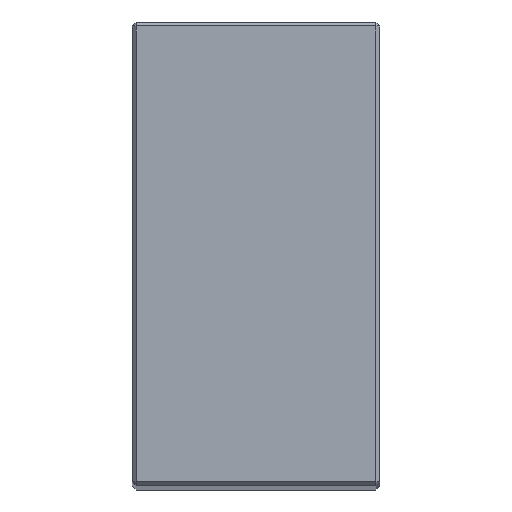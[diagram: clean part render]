
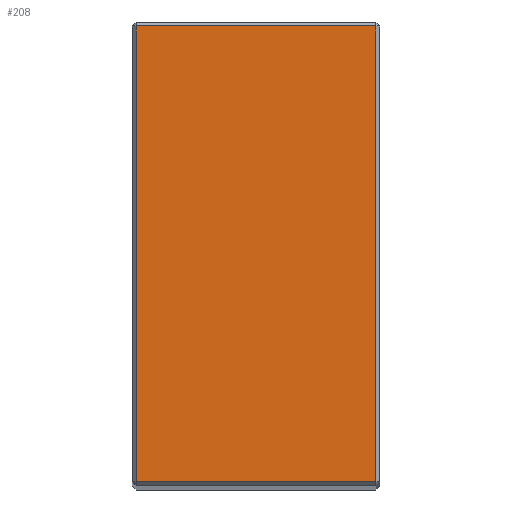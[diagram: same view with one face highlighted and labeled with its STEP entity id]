
A CAD part, top view. The second image highlights one B-rep face of the part: STEP entity #208.
In plain terms, the highlighted planar face has unit normal (0, 0, 1).
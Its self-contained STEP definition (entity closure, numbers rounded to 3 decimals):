
#5 = VERTEX_POINT ( 'NONE', #333 ) ;
#7 = DIRECTION ( 'NONE',  ( 0., -1., 0. ) ) ;
#12 = VECTOR ( 'NONE', #193, 1000. ) ;
#37 = ORIENTED_EDGE ( 'NONE', *, *, #225, .T. ) ;
#68 = ORIENTED_EDGE ( 'NONE', *, *, #131, .T. ) ;
#85 = DIRECTION ( 'NONE',  ( -1., 0., 0. ) ) ;
#94 = CARTESIAN_POINT ( 'NONE',  ( -31., 115., 298. ) ) ;
#99 = PLANE ( 'NONE',  #425 ) ;
#102 = CARTESIAN_POINT ( 'NONE',  ( 31., 116., 298. ) ) ;
#111 = DIRECTION ( 'NONE',  ( 0., 0., -1. ) ) ;
#112 = DIRECTION ( 'NONE',  ( -1., 0., 0. ) ) ;
#117 = CARTESIAN_POINT ( 'NONE',  ( 30., 115., 298. ) ) ;
#131 = EDGE_CURVE ( 'NONE', #299, #390, #635, .T. ) ;
#137 = EDGE_LOOP ( 'NONE', ( #291, #68, #37, #457 ) ) ;
#176 = CARTESIAN_POINT ( 'NONE',  ( 30., 116., 298. ) ) ;
#193 = DIRECTION ( 'NONE',  ( 1., 0., 0. ) ) ;
#201 = CARTESIAN_POINT ( 'NONE',  ( 31., 1., 298. ) ) ;
#202 = EDGE_CURVE ( 'NONE', #525, #299, #622, .T. ) ;
#208 = ADVANCED_FACE ( 'NONE', ( #287 ), #99, .F. ) ;
#221 = DIRECTION ( 'NONE',  ( 0., 1., 0. ) ) ;
#225 = EDGE_CURVE ( 'NONE', #390, #5, #406, .T. ) ;
#250 = CARTESIAN_POINT ( 'NONE',  ( -30., 116., 298. ) ) ;
#257 = VECTOR ( 'NONE', #85, 1000. ) ;
#287 = FACE_OUTER_BOUND ( 'NONE', #137, .T. ) ;
#291 = ORIENTED_EDGE ( 'NONE', *, *, #202, .T. ) ;
#299 = VERTEX_POINT ( 'NONE', #337 ) ;
#333 = CARTESIAN_POINT ( 'NONE',  ( 30., 1., 298. ) ) ;
#337 = CARTESIAN_POINT ( 'NONE',  ( -30., 115., 298. ) ) ;
#341 = LINE ( 'NONE', #176, #575 ) ;
#390 = VERTEX_POINT ( 'NONE', #449 ) ;
#406 = LINE ( 'NONE', #201, #12 ) ;
#425 = AXIS2_PLACEMENT_3D ( 'NONE', #102, #111, #112 ) ;
#449 = CARTESIAN_POINT ( 'NONE',  ( -30., 1., 298. ) ) ;
#457 = ORIENTED_EDGE ( 'NONE', *, *, #521, .T. ) ;
#521 = EDGE_CURVE ( 'NONE', #5, #525, #341, .T. ) ;
#525 = VERTEX_POINT ( 'NONE', #117 ) ;
#575 = VECTOR ( 'NONE', #221, 1000. ) ;
#604 = VECTOR ( 'NONE', #7, 1000. ) ;
#622 = LINE ( 'NONE', #94, #257 ) ;
#635 = LINE ( 'NONE', #250, #604 ) ;
